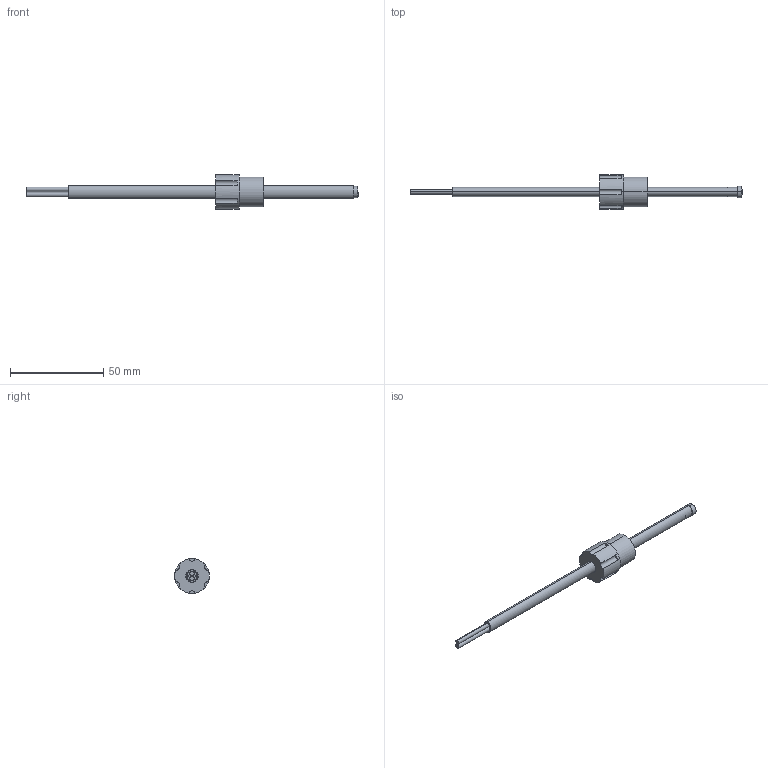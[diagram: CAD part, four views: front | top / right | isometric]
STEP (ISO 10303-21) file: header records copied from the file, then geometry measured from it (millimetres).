
FILE_DESCRIPTION (( 'STEP AP214' ), '1' );
FILE_NAME ('sfd-fiber-optic-stroke-detect.STEP', '2012-11-21T20:19:57', ( '' ), ( '' ), 'SwSTEP 2.0', 'SolidWorks 2012', '' );
FILE_SCHEMA (( 'AUTOMOTIVE_DESIGN' ));
Length unit declared in the file: inch
Products named in the file (1): sfd-fiber-optic-stroke-detect
Bounding box: 177.8 x 18.54 x 18.54 mm (x, y, z)
Volume: 8449 mm3; surface area: 10255.8 mm2
Topology: 5 solids, 5 shells, 49 faces, 117 edges, 78 vertices
Faces by surface type: cylinder 27, plane 18, bspline 4
Entity records: 2272 total; most frequent: CARTESIAN_POINT 353, DIRECTION 271, ORIENTED_EDGE 234, EDGE_CURVE 117, AXIS2_PLACEMENT_3D 116, VERTEX_POINT 78, CIRCLE 70, EDGE_LOOP 57
